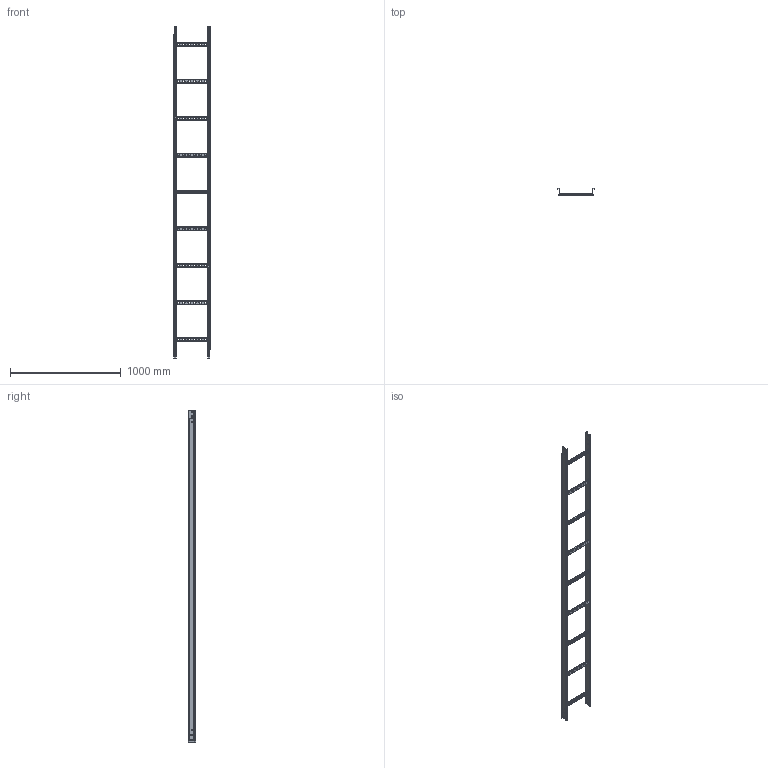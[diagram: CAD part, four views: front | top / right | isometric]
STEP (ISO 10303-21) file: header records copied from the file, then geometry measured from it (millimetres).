
FILE_DESCRIPTION (( 'STEP AP203' ), '1' );
FILE_NAME ('FE trav35 H60-75-100 p333 300x60.step', '2023-07-28T15:28:10', ( '' ), ( '' ), 'SwSTEP 2.0', 'SolidWorks 2022', '' );
FILE_SCHEMA (( 'CONFIG_CONTROL_DESIGN' ));
Length unit declared in the file: millimetre
Products named in the file (3): FE trav35 H60-75-100 p333 300x60; FE_RA35_300; FE_MONTANTE_60x1,5
Assembly tree (11 placements, depth 2):
  FE trav35 H60-75-100 p333 300x60
    FE_MONTANTE_60x1,5  x2
    FE_RA35_300  x9
Bounding box: 332 x 64.5 x 3000 mm (x, y, z)
Volume: 283725.5 mm3; surface area: 1571898.4 mm2
Topology: 9 solids, 13 shells, 792 faces, 2020 edges, 1252 vertices
Faces by surface type: plane 490, cylinder 298, bspline 4
Entity records: 6003 total; most frequent: CARTESIAN_POINT 1318, DIRECTION 897, ORIENTED_EDGE 842, EDGE_CURVE 429, AXIS2_PLACEMENT_3D 315, VERTEX_POINT 276, LINE 267, VECTOR 267
